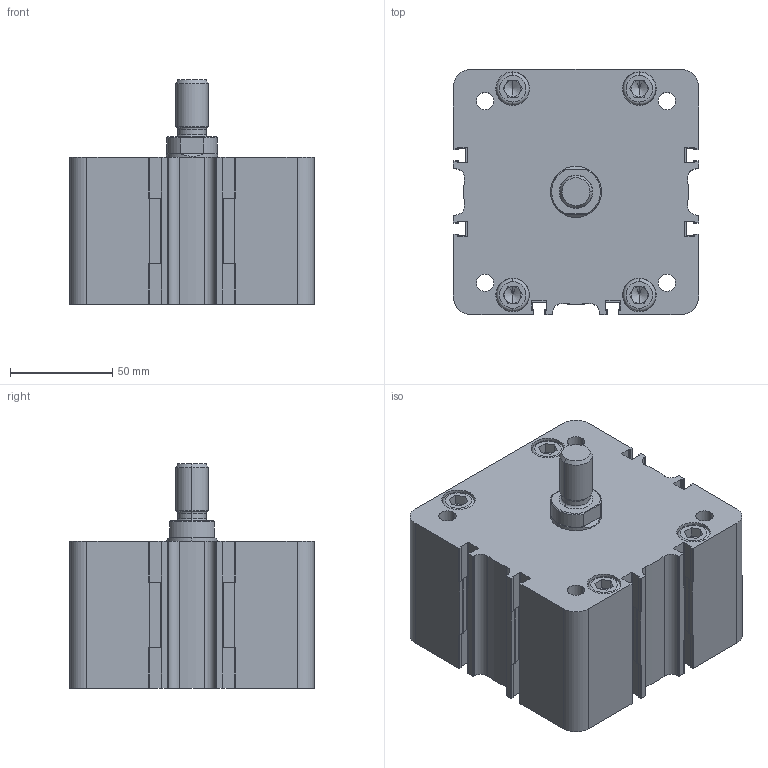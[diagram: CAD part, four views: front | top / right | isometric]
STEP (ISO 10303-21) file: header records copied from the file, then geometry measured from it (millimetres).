
FILE_DESCRIPTION (( 'STEP AP203' ), '1' );
FILE_NAME ('WBM1000005A.step', '2013-04-22T07:23:40', ( '' ), ( '' ), 'SwSTEP 2.0', 'SolidWorks 2012', '' );
FILE_SCHEMA (( 'CONFIG_CONTROL_DESIGN' ));
Length unit declared in the file: millimetre
Products named in the file (1): WBM1000005A
Bounding box: 120 x 120 x 110 mm (x, y, z)
Volume: 976871.1 mm3; surface area: 88713.3 mm2
Topology: 1 solids, 1 shells, 559 faces, 1503 edges, 961 vertices
Faces by surface type: plane 282, cylinder 227, cone 30, torus 20
Entity records: 17625 total; most frequent: CARTESIAN_POINT 3162, DIRECTION 3136, ORIENTED_EDGE 2974, EDGE_CURVE 1487, AXIS2_PLACEMENT_3D 1107, VERTEX_POINT 961, LINE 922, VECTOR 922
